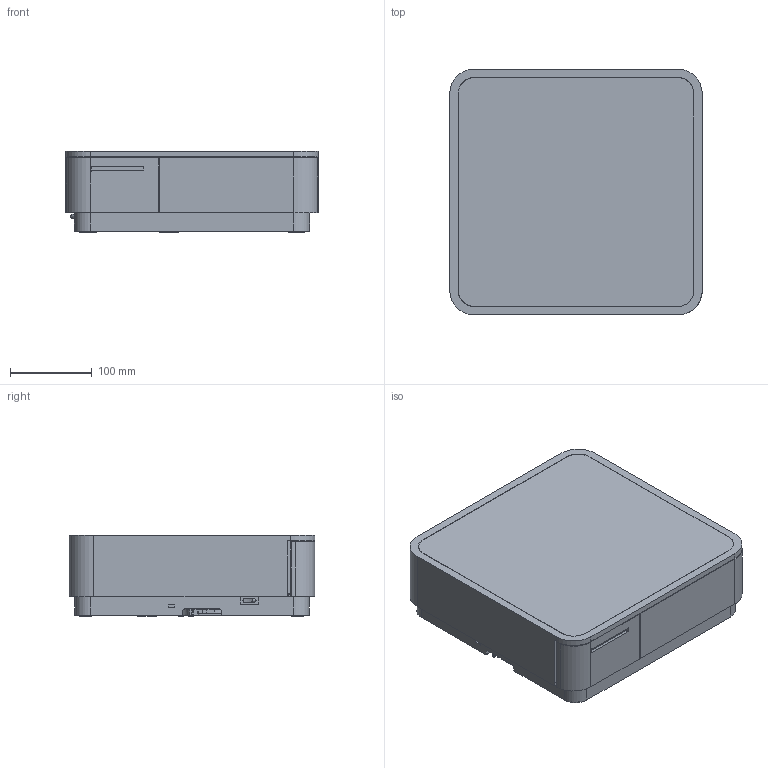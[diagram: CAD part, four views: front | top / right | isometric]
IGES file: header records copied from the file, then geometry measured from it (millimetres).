
Start section: Elysium IGES Interface
Global section: file name: 94HX:\Develop\Personal\Umezawa\20190125_公開用外観3Dデータ\提出用データ_IGES形式\mPOP_3D_data.igs; native system: PTC Creo Elements/Direct Modeling 19.0E  27-Jun-2016; preprocessor: Creo Element/Direct IGES_3D V2.2; author: Unknown; organization: Unknown; date: 20190131.113638; units: millimetre
Bounding box: 308.05 x 300 x 100 mm (x, y, z)
Volume: 7782736.5 mm3; surface area: 398298.6 mm2
Topology: 1 solids, 1 shells, 1763 faces, 4786 edges, 3147 vertices
Faces by surface type: bspline 1763
